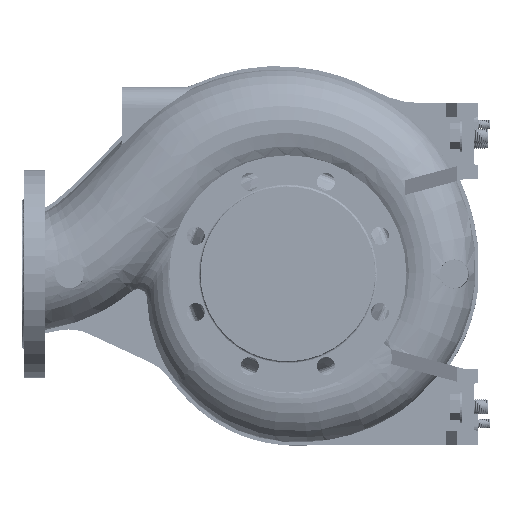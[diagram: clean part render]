
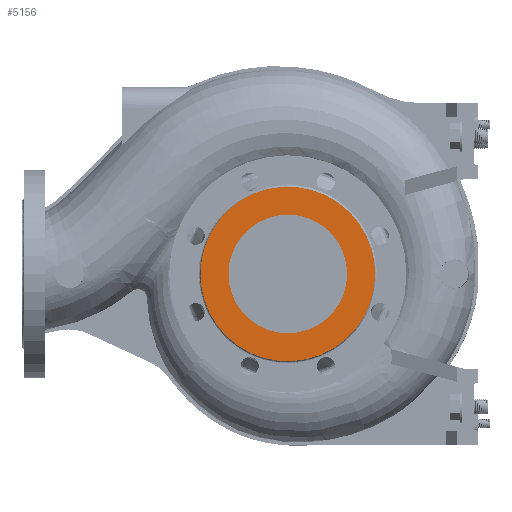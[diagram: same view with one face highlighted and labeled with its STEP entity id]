
A CAD part, left-side view. The second image highlights one B-rep face of the part: STEP entity #5156.
In plain terms, the highlighted planar face has unit normal (-1, 0, 0).
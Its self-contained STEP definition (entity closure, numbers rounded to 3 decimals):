
#5156 = ADVANCED_FACE ( 'NONE', ( #164003, #7889 ), #42579, .F. ) ;
#5889 = AXIS2_PLACEMENT_3D ( 'NONE', #190965, #53624, #103270 ) ;
#6679 = CARTESIAN_POINT ( 'NONE',  ( -125., 90.377, 17.977 ) ) ;
#7889 = FACE_OUTER_BOUND ( 'NONE', #40148, .T. ) ;
#12442 = CARTESIAN_POINT ( 'NONE',  ( -125., -90.814, -18.064 ) ) ;
#12559 = CARTESIAN_POINT ( 'NONE',  ( -125., -92., 0. ) ) ;
#13416 = CARTESIAN_POINT ( 'NONE',  ( -125., 18.062, -90.815 ) ) ;
#13435 = EDGE_LOOP ( 'NONE', ( #82040, #133230 ) ) ;
#18752 = DIRECTION ( 'NONE',  ( -1., 0., 0. ) ) ;
#20586 = CARTESIAN_POINT ( 'NONE',  ( -125., 66.273, 64.149 ) ) ;
#23526 = CARTESIAN_POINT ( 'NONE',  ( -125., 92., 0. ) ) ;
#24370 = CARTESIAN_POINT ( 'NONE',  ( -125., 43.438, -81.267 ) ) ;
#28110 = EDGE_CURVE ( 'NONE', #96816, #96229, #154933, .T. ) ;
#28318 = CARTESIAN_POINT ( 'NONE',  ( -125., 90.377, -17.977 ) ) ;
#39296 = CARTESIAN_POINT ( 'NONE',  ( -125., 80.624, -44.798 ) ) ;
#40148 = EDGE_LOOP ( 'NONE', ( #97921, #188279 ) ) ;
#42579 = PLANE ( 'NONE',  #5889 ) ;
#43212 = CARTESIAN_POINT ( 'NONE',  ( -125., 51.195, -76.618 ) ) ;
#51413 = CARTESIAN_POINT ( 'NONE',  ( -125., 43.438, 81.267 ) ) ;
#53579 = VERTEX_POINT ( 'NONE', #159325 ) ;
#53624 = DIRECTION ( 'NONE',  ( 1., 0., 0. ) ) ;
#55200 = CARTESIAN_POINT ( 'NONE',  ( -125., 58.458, -71.231 ) ) ;
#55247 = EDGE_CURVE ( 'NONE', #53579, #174579, #169403, .T. ) ;
#58257 = CARTESIAN_POINT ( 'NONE',  ( -125., -90.814, 18.064 ) ) ;
#66335 = CARTESIAN_POINT ( 'NONE',  ( -125., 51.195, 76.618 ) ) ;
#67306 = CARTESIAN_POINT ( 'NONE',  ( -125., 32.548, 86.419 ) ) ;
#71126 = CARTESIAN_POINT ( 'NONE',  ( -125., -65.473, -65.473 ) ) ;
#73114 = CARTESIAN_POINT ( 'NONE',  ( -125., 74.163, -55.003 ) ) ;
#74076 = CARTESIAN_POINT ( 'NONE',  ( -125., -18.064, -90.814 ) ) ;
#79422 = CARTESIAN_POINT ( 'NONE',  ( -125., 0., 0. ) ) ;
#79540 = EDGE_CURVE ( 'NONE', #174579, #53579, #86187, .T. ) ;
#82040 = ORIENTED_EDGE ( 'NONE', *, *, #189203, .F. ) ;
#85096 = CARTESIAN_POINT ( 'NONE',  ( -125., -85.545, -35.434 ) ) ;
#86091 = CARTESIAN_POINT ( 'NONE',  ( -125., 0.001, -92.593 ) ) ;
#86187 = B_SPLINE_CURVE_WITH_KNOTS ( 'NONE', 3,
 ( #23526, #130002, #145916, #6679, #98170, #187761, #176738, #189719, #20586, #141950, #66335, #51413, #67306, #128012, #188725, #118954, #116990, #88148, #147841, #195591, #87158, #58257, #193639, #12559 ),
 .UNSPECIFIED., .F., .F.,
 ( 4, 1, 1, 1, 1, 1, 1, 1, 1, 1, 1, 1, 1, 1, 1, 1, 1, 1, 1, 1, 1, 4 ),
 ( 0., 0.009, 0.018, 0.027, 0.036, 0.045, 0.059, 0.073, 0.082, 0.091, 0.1, 0.109, 0.127, 0.145, 0.163, 0.181, 0.199, 0.218, 0.236, 0.254, 0.272, 0.29 ),
 .UNSPECIFIED. ) ;
#87158 = CARTESIAN_POINT ( 'NONE',  ( -125., -85.545, 35.434 ) ) ;
#88148 = CARTESIAN_POINT ( 'NONE',  ( -125., -51.442, 76.988 ) ) ;
#89035 = CARTESIAN_POINT ( 'NONE',  ( -125., -92., 0. ) ) ;
#96229 = VERTEX_POINT ( 'NONE', #143541 ) ;
#96816 = VERTEX_POINT ( 'NONE', #162153 ) ;
#97921 = ORIENTED_EDGE ( 'NONE', *, *, #55247, .F. ) ;
#98170 = CARTESIAN_POINT ( 'NONE',  ( -125., 88.18, 26.749 ) ) ;
#101952 = CARTESIAN_POINT ( 'NONE',  ( -125., -92., -6.021 ) ) ;
#103270 = DIRECTION ( 'NONE',  ( 0., 0., -1. ) ) ;
#103904 = CARTESIAN_POINT ( 'NONE',  ( -125., 91.704, -9.033 ) ) ;
#109252 = DIRECTION ( 'NONE',  ( 0., 0., -1. ) ) ;
#112642 = CARTESIAN_POINT ( 'NONE',  ( -125., 92., 0. ) ) ;
#115886 = CARTESIAN_POINT ( 'NONE',  ( -125., 88.18, -26.749 ) ) ;
#116990 = CARTESIAN_POINT ( 'NONE',  ( -125., -35.434, 85.545 ) ) ;
#118954 = CARTESIAN_POINT ( 'NONE',  ( -125., -18.064, 90.814 ) ) ;
#128012 = CARTESIAN_POINT ( 'NONE',  ( -125., 18.062, 90.815 ) ) ;
#130002 = CARTESIAN_POINT ( 'NONE',  ( -125., 92., 3.009 ) ) ;
#130846 = CARTESIAN_POINT ( 'NONE',  ( -125., 92., 0. ) ) ;
#132784 = CARTESIAN_POINT ( 'NONE',  ( -125., -51.442, -76.988 ) ) ;
#133230 = ORIENTED_EDGE ( 'NONE', *, *, #28110, .F. ) ;
#133788 = CARTESIAN_POINT ( 'NONE',  ( -125., 85.133, -35.264 ) ) ;
#134757 = CARTESIAN_POINT ( 'NONE',  ( -125., 66.273, -64.149 ) ) ;
#136184 = DIRECTION ( 'NONE',  ( -1., 0., 0. ) ) ;
#139343 = CIRCLE ( 'NONE', #148868, 62.5 ) ;
#140115 = DIRECTION ( 'NONE',  ( 0., 0., -1. ) ) ;
#141950 = CARTESIAN_POINT ( 'NONE',  ( -125., 58.458, 71.231 ) ) ;
#143541 = CARTESIAN_POINT ( 'NONE',  ( -125., 0., -62.5 ) ) ;
#145916 = CARTESIAN_POINT ( 'NONE',  ( -125., 91.704, 9.033 ) ) ;
#147841 = CARTESIAN_POINT ( 'NONE',  ( -125., -65.473, 65.473 ) ) ;
#148868 = AXIS2_PLACEMENT_3D ( 'NONE', #79422, #18752, #140115 ) ;
#154933 = CIRCLE ( 'NONE', #180382, 62.5 ) ;
#159325 = CARTESIAN_POINT ( 'NONE',  ( -125., -92., 0. ) ) ;
#162153 = CARTESIAN_POINT ( 'NONE',  ( -125., 0., 62.5 ) ) ;
#164003 = FACE_BOUND ( 'NONE', #13435, .T. ) ;
#164633 = CARTESIAN_POINT ( 'NONE',  ( -125., 92., -3.009 ) ) ;
#169403 = B_SPLINE_CURVE_WITH_KNOTS ( 'NONE', 3,
 ( #89035, #101952, #12442, #85096, #195473, #71126, #132784, #193516, #74076, #86091, #13416, #178597, #24370, #43212, #55200, #134757, #73114, #39296, #133788, #115886, #28318, #103904, #164633, #130846 ),
 .UNSPECIFIED., .F., .F.,
 ( 4, 1, 1, 1, 1, 1, 1, 1, 1, 1, 1, 1, 1, 1, 1, 1, 1, 1, 1, 1, 1, 4 ),
 ( 0., 0.018, 0.036, 0.054, 0.072, 0.091, 0.109, 0.127, 0.145, 0.163, 0.181, 0.19, 0.199, 0.208, 0.217, 0.231, 0.244, 0.254, 0.263, 0.272, 0.281, 0.29 ),
 .UNSPECIFIED. ) ;
#170952 = CARTESIAN_POINT ( 'NONE',  ( -125., 0., 0. ) ) ;
#174579 = VERTEX_POINT ( 'NONE', #112642 ) ;
#176738 = CARTESIAN_POINT ( 'NONE',  ( -125., 80.624, 44.798 ) ) ;
#178597 = CARTESIAN_POINT ( 'NONE',  ( -125., 32.548, -86.419 ) ) ;
#180382 = AXIS2_PLACEMENT_3D ( 'NONE', #170952, #136184, #109252 ) ;
#187761 = CARTESIAN_POINT ( 'NONE',  ( -125., 85.133, 35.264 ) ) ;
#188279 = ORIENTED_EDGE ( 'NONE', *, *, #79540, .F. ) ;
#188725 = CARTESIAN_POINT ( 'NONE',  ( -125., 0.001, 92.593 ) ) ;
#189203 = EDGE_CURVE ( 'NONE', #96229, #96816, #139343, .T. ) ;
#189719 = CARTESIAN_POINT ( 'NONE',  ( -125., 74.163, 55.003 ) ) ;
#190965 = CARTESIAN_POINT ( 'NONE',  ( -125., -93.104, 93.104 ) ) ;
#193516 = CARTESIAN_POINT ( 'NONE',  ( -125., -35.434, -85.545 ) ) ;
#193639 = CARTESIAN_POINT ( 'NONE',  ( -125., -92., 6.021 ) ) ;
#195473 = CARTESIAN_POINT ( 'NONE',  ( -125., -76.988, -51.442 ) ) ;
#195591 = CARTESIAN_POINT ( 'NONE',  ( -125., -76.988, 51.442 ) ) ;
